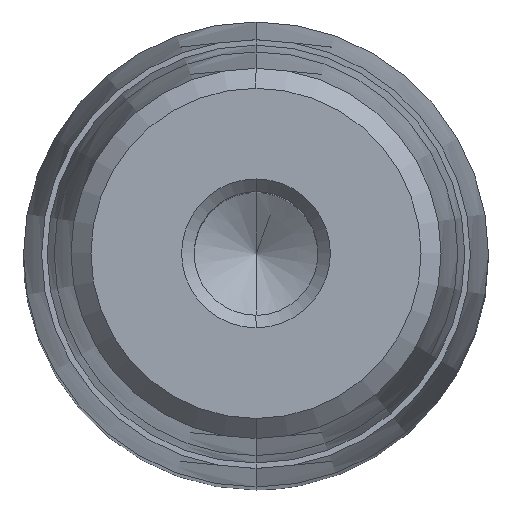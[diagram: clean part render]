
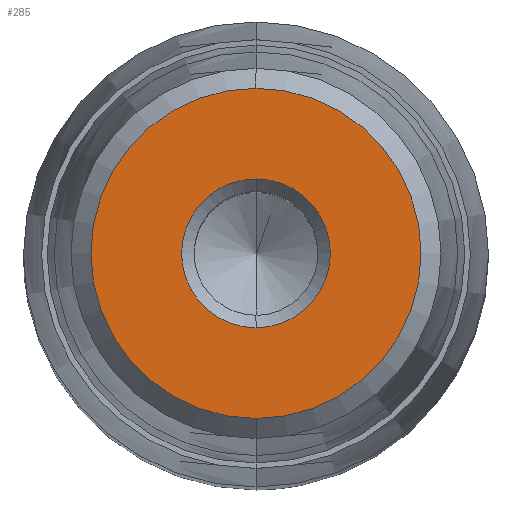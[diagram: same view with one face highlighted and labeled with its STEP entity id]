
A CAD part, top view. The second image highlights one B-rep face of the part: STEP entity #285.
In plain terms, the highlighted planar face has unit normal (0, 0, 1).
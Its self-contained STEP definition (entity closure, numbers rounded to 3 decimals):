
#164=CARTESIAN_POINT('Axis2P3D Location',(0.,0.,35.)) ;
#168=CARTESIAN_POINT('Vertex',(4.,0.,35.)) ;
#170=CARTESIAN_POINT('Vertex',(0.,-4.,35.)) ;
#173=CARTESIAN_POINT('Axis2P3D Location',(0.,0.,35.)) ;
#177=CARTESIAN_POINT('Vertex',(0.,4.,35.)) ;
#228=CARTESIAN_POINT('Axis2P3D Location',(0.,4.,35.)) ;
#233=CARTESIAN_POINT('Axis2P3D Location',(0.,0.,35.)) ;
#237=CARTESIAN_POINT('Vertex',(0.,8.875,35.)) ;
#239=CARTESIAN_POINT('Vertex',(8.875,0.,35.)) ;
#242=CARTESIAN_POINT('Axis2P3D Location',(0.,0.,35.)) ;
#246=CARTESIAN_POINT('Vertex',(-8.875,0.,35.)) ;
#249=CARTESIAN_POINT('Axis2P3D Location',(0.,0.,35.)) ;
#253=CARTESIAN_POINT('Vertex',(0.,-8.875,35.)) ;
#256=CARTESIAN_POINT('Axis2P3D Location',(0.,0.,35.)) ;
#267=CARTESIAN_POINT('Axis2P3D Location',(0.,0.,35.)) ;
#271=CARTESIAN_POINT('Vertex',(-4.,0.,35.)) ;
#274=CARTESIAN_POINT('Axis2P3D Location',(0.,0.,35.)) ;
#165=DIRECTION('Axis2P3D Direction',(-0.,0.,1.)) ;
#174=DIRECTION('Axis2P3D Direction',(-0.,0.,1.)) ;
#229=DIRECTION('Axis2P3D Direction',(0.,0.,-1.)) ;
#230=DIRECTION('Axis2P3D XDirection',(0.,1.,0.)) ;
#234=DIRECTION('Axis2P3D Direction',(0.,0.,-1.)) ;
#243=DIRECTION('Axis2P3D Direction',(0.,0.,-1.)) ;
#250=DIRECTION('Axis2P3D Direction',(0.,0.,-1.)) ;
#257=DIRECTION('Axis2P3D Direction',(0.,0.,-1.)) ;
#268=DIRECTION('Axis2P3D Direction',(0.,0.,-1.)) ;
#275=DIRECTION('Axis2P3D Direction',(0.,0.,-1.)) ;
#166=AXIS2_PLACEMENT_3D('Circle Axis2P3D',#164,#165,$) ;
#175=AXIS2_PLACEMENT_3D('Circle Axis2P3D',#173,#174,$) ;
#231=AXIS2_PLACEMENT_3D('Plane Axis2P3D',#228,#229,#230) ;
#235=AXIS2_PLACEMENT_3D('Circle Axis2P3D',#233,#234,$) ;
#244=AXIS2_PLACEMENT_3D('Circle Axis2P3D',#242,#243,$) ;
#251=AXIS2_PLACEMENT_3D('Circle Axis2P3D',#249,#250,$) ;
#258=AXIS2_PLACEMENT_3D('Circle Axis2P3D',#256,#257,$) ;
#269=AXIS2_PLACEMENT_3D('Circle Axis2P3D',#267,#268,$) ;
#276=AXIS2_PLACEMENT_3D('Circle Axis2P3D',#274,#275,$) ;
#262=ORIENTED_EDGE('',*,*,#241,.F.) ;
#263=ORIENTED_EDGE('',*,*,#248,.F.) ;
#264=ORIENTED_EDGE('',*,*,#255,.F.) ;
#265=ORIENTED_EDGE('',*,*,#260,.F.) ;
#280=ORIENTED_EDGE('',*,*,#172,.T.) ;
#281=ORIENTED_EDGE('',*,*,#273,.T.) ;
#282=ORIENTED_EDGE('',*,*,#278,.T.) ;
#283=ORIENTED_EDGE('',*,*,#179,.T.) ;
#284=FACE_BOUND('',#279,.T.) ;
#285=ADVANCED_FACE('722-25x112x135',(#266,#284),#232,.F.) ;
#167=CIRCLE('generated circle',#166,4.) ;
#176=CIRCLE('generated circle',#175,4.) ;
#236=CIRCLE('generated circle',#235,8.875) ;
#245=CIRCLE('generated circle',#244,8.875) ;
#252=CIRCLE('generated circle',#251,8.875) ;
#259=CIRCLE('generated circle',#258,8.875) ;
#270=CIRCLE('generated circle',#269,4.) ;
#277=CIRCLE('generated circle',#276,4.) ;
#172=EDGE_CURVE('',#169,#171,#167,.F.) ;
#179=EDGE_CURVE('',#178,#169,#176,.F.) ;
#241=EDGE_CURVE('',#238,#240,#236,.T.) ;
#248=EDGE_CURVE('',#247,#238,#245,.T.) ;
#255=EDGE_CURVE('',#254,#247,#252,.T.) ;
#260=EDGE_CURVE('',#240,#254,#259,.T.) ;
#273=EDGE_CURVE('',#171,#272,#270,.T.) ;
#278=EDGE_CURVE('',#272,#178,#277,.T.) ;
#261=EDGE_LOOP('',(#262,#263,#264,#265)) ;
#279=EDGE_LOOP('',(#280,#281,#282,#283)) ;
#266=FACE_OUTER_BOUND('',#261,.T.) ;
#232=PLANE('Plane',#231) ;
#169=VERTEX_POINT('',#168) ;
#171=VERTEX_POINT('',#170) ;
#178=VERTEX_POINT('',#177) ;
#238=VERTEX_POINT('',#237) ;
#240=VERTEX_POINT('',#239) ;
#247=VERTEX_POINT('',#246) ;
#254=VERTEX_POINT('',#253) ;
#272=VERTEX_POINT('',#271) ;
